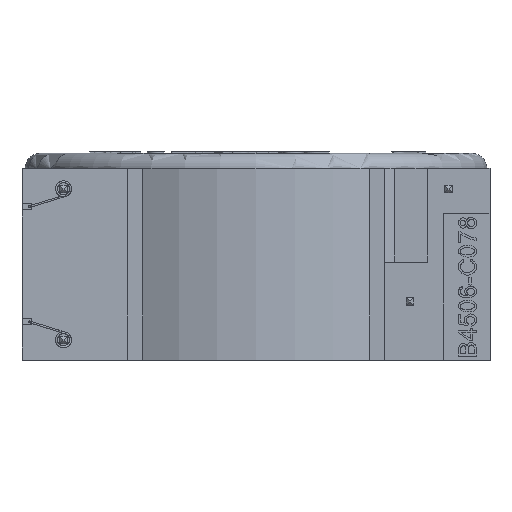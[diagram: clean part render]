
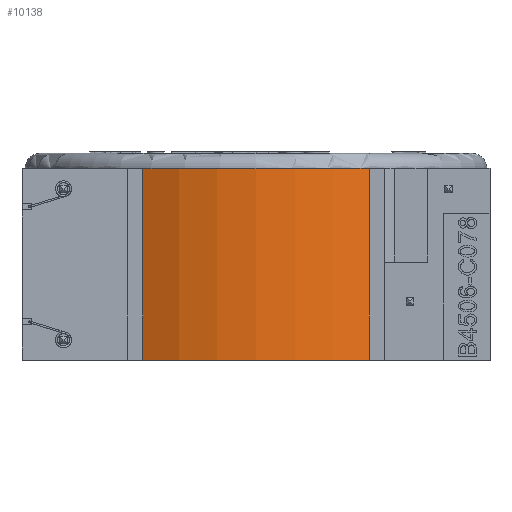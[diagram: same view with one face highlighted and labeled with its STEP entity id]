
A CAD part, front view. The second image highlights one B-rep face of the part: STEP entity #10138.
In plain terms, the highlighted cylindrical face has radius 15.5 mm (diameter 31 mm), a partial arc.
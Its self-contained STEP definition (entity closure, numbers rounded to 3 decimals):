
#1301=FACE_OUTER_BOUND('',#1857,.T.);
#1857=EDGE_LOOP('',(#8247,#8248,#8249,#8250));
#2716=LINE('',#16382,#3674);
#2717=LINE('',#16386,#3675);
#3674=VECTOR('',#12010,10.);
#3675=VECTOR('',#12013,10.);
#4047=CIRCLE('',#10648,15.5);
#4048=CIRCLE('',#10649,15.5);
#4676=VERTEX_POINT('',#16380);
#4677=VERTEX_POINT('',#16381);
#4678=VERTEX_POINT('',#16383);
#4679=VERTEX_POINT('',#16385);
#5926=EDGE_CURVE('',#4676,#4677,#2716,.T.);
#5927=EDGE_CURVE('',#4678,#4677,#4047,.T.);
#5928=EDGE_CURVE('',#4678,#4679,#2717,.T.);
#5929=EDGE_CURVE('',#4679,#4676,#4048,.T.);
#8247=ORIENTED_EDGE('',*,*,#5926,.T.);
#8248=ORIENTED_EDGE('',*,*,#5927,.F.);
#8249=ORIENTED_EDGE('',*,*,#5928,.T.);
#8250=ORIENTED_EDGE('',*,*,#5929,.T.);
#9260=CYLINDRICAL_SURFACE('',#10647,15.5);
#10138=ADVANCED_FACE('',(#1301),#9260,.T.);
#10647=AXIS2_PLACEMENT_3D('',#16379,#12008,#12009);
#10648=AXIS2_PLACEMENT_3D('',#16384,#12011,#12012);
#10649=AXIS2_PLACEMENT_3D('',#16387,#12014,#12015);
#12008=DIRECTION('center_axis',(0.,0.,1.));
#12009=DIRECTION('ref_axis',(0.591,-0.806,0.));
#12010=DIRECTION('',(0.,0.,-1.));
#12011=DIRECTION('center_axis',(0.,0.,-1.));
#12012=DIRECTION('ref_axis',(0.591,-0.806,0.));
#12013=DIRECTION('',(0.,0.,1.));
#12014=DIRECTION('center_axis',(0.,0.,-1.));
#12015=DIRECTION('ref_axis',(0.591,-0.806,0.));
#16379=CARTESIAN_POINT('Origin',(0.267,1.566,0.));
#16380=CARTESIAN_POINT('',(-7.233,-11.999,12.7));
#16381=CARTESIAN_POINT('',(-7.233,-11.999,0.));
#16382=CARTESIAN_POINT('',(-7.233,-11.999,0.));
#16383=CARTESIAN_POINT('',(7.767,-11.999,0.));
#16384=CARTESIAN_POINT('Origin',(0.267,1.566,0.));
#16385=CARTESIAN_POINT('',(7.767,-11.999,12.7));
#16386=CARTESIAN_POINT('',(7.767,-11.999,0.));
#16387=CARTESIAN_POINT('Origin',(0.267,1.566,12.7));
